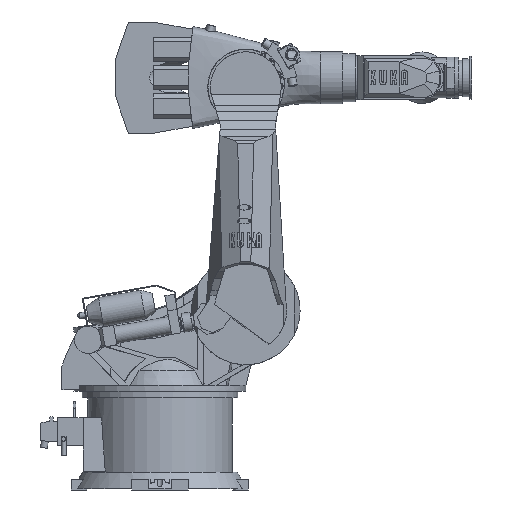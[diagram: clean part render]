
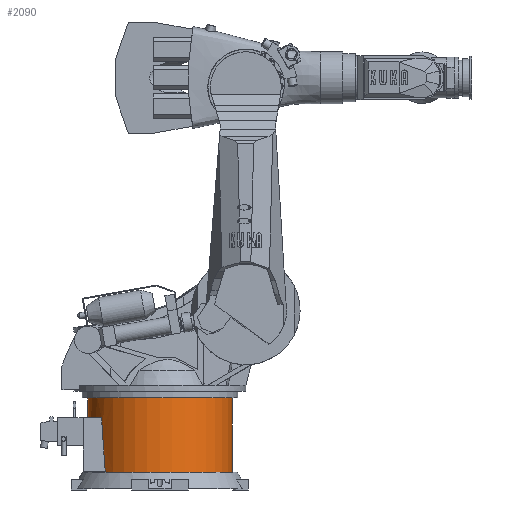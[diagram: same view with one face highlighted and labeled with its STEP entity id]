
A CAD part, front view. The second image highlights one B-rep face of the part: STEP entity #2090.
In plain terms, the highlighted cylindrical face has radius 420.5 mm (diameter 841 mm), a full revolution.
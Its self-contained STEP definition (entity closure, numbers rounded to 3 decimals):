
#143=ELLIPSE('',#23398,4824.696,420.5);
#144=ELLIPSE('',#23400,4824.696,420.5);
#605=FACE_BOUND('',#5589,.T.);
#606=FACE_BOUND('',#5590,.T.);
#607=FACE_BOUND('',#5591,.T.);
#1036=CYLINDRICAL_SURFACE('',#23402,420.5);
#1296=CIRCLE('',#23283,420.5);
#1331=CIRCLE('',#23397,420.5);
#1332=CIRCLE('',#23399,420.5);
#1333=CIRCLE('',#23401,420.5);
#2090=ADVANCED_FACE('',(#605,#606,#607),#1036,.T.);
#5589=EDGE_LOOP('',(#8102));
#5590=EDGE_LOOP('',(#8103,#8104,#8105,#8106));
#5591=EDGE_LOOP('',(#8107));
#8102=ORIENTED_EDGE('',*,*,#15981,.F.);
#8103=ORIENTED_EDGE('',*,*,#15982,.F.);
#8104=ORIENTED_EDGE('',*,*,#15983,.F.);
#8105=ORIENTED_EDGE('',*,*,#15984,.F.);
#8106=ORIENTED_EDGE('',*,*,#15985,.F.);
#8107=ORIENTED_EDGE('',*,*,#15844,.T.);
#13539=VERTEX_POINT('',#36796);
#13618=VERTEX_POINT('',#37081);
#13619=VERTEX_POINT('',#37083);
#13620=VERTEX_POINT('',#37084);
#13621=VERTEX_POINT('',#37086);
#13622=VERTEX_POINT('',#37088);
#15844=EDGE_CURVE('',#13539,#13539,#1296,.T.);
#15981=EDGE_CURVE('',#13618,#13618,#1331,.T.);
#15982=EDGE_CURVE('',#13619,#13620,#143,.T.);
#15983=EDGE_CURVE('',#13621,#13619,#1332,.T.);
#15984=EDGE_CURVE('',#13622,#13621,#144,.T.);
#15985=EDGE_CURVE('',#13620,#13622,#1333,.T.);
#23283=AXIS2_PLACEMENT_3D('',#36795,#25865,#25866);
#23397=AXIS2_PLACEMENT_3D('',#37080,#26185,#26186);
#23398=AXIS2_PLACEMENT_3D('',#37082,#26187,#26188);
#23399=AXIS2_PLACEMENT_3D('',#37085,#26189,#26190);
#23400=AXIS2_PLACEMENT_3D('',#37087,#26191,#26192);
#23401=AXIS2_PLACEMENT_3D('',#37089,#26193,#26194);
#23402=AXIS2_PLACEMENT_3D('',#37090,#26195,#26196);
#25865=DIRECTION('',(0.,0.,1.));
#25866=DIRECTION('',(0.,1.,0.));
#26185=DIRECTION('',(0.,0.,1.));
#26186=DIRECTION('',(0.,-1.,0.));
#26187=DIRECTION('',(0.,0.996,-0.087));
#26188=DIRECTION('',(0.,0.087,0.996));
#26189=DIRECTION('',(0.,0.,1.));
#26190=DIRECTION('',(0.,-1.,0.));
#26191=DIRECTION('',(0.,-0.996,-0.087));
#26192=DIRECTION('',(0.,-0.087,0.996));
#26193=DIRECTION('',(0.,0.,-1.));
#26194=DIRECTION('',(0.,1.,0.));
#26195=DIRECTION('',(0.,0.,1.));
#26196=DIRECTION('',(0.,1.,0.));
#36795=CARTESIAN_POINT('',(0.,0.,96.));
#36796=CARTESIAN_POINT('',(0.,420.5,96.));
#37080=CARTESIAN_POINT('',(0.,0.,528.));
#37081=CARTESIAN_POINT('',(0.,-420.5,528.));
#37082=CARTESIAN_POINT('',(0.,0.,3245.14));
#37083=CARTESIAN_POINT('',(-318.121,-274.989,102.));
#37084=CARTESIAN_POINT('',(-339.679,-247.868,412.));
#37085=CARTESIAN_POINT('',(0.,0.,102.));
#37086=CARTESIAN_POINT('',(-318.103,275.011,102.));
#37087=CARTESIAN_POINT('',(0.,0.,3245.389));
#37088=CARTESIAN_POINT('',(-339.663,247.889,412.));
#37089=CARTESIAN_POINT('',(0.,0.,412.));
#37090=CARTESIAN_POINT('',(0.,0.,96.));
